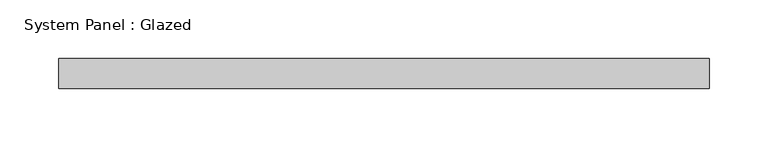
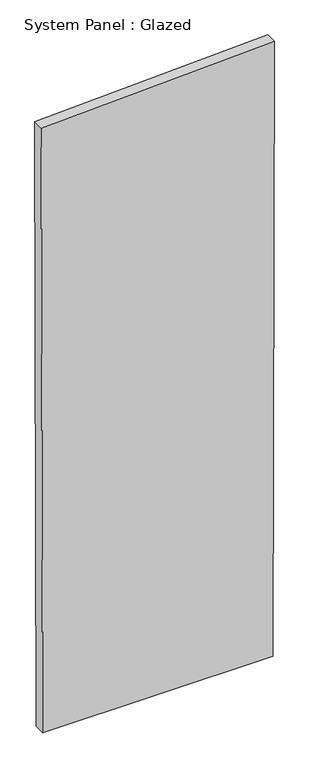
"""IFC4 building model written with IfcOpenShell, lengths in millimetres: plate geometry, System Panel : Glazed."""

from ifc_helpers import new_model, si_unit, frame, origin, place, context, project, spatial, polyline, outline, extrude, source, transform, mapped, element, save


def system_panel_glazed_33264784(model_context):
    return source(origin(), model_context, "Body", "SweptSolid", [
        extrude(outline(polyline([(0.0, -272.2208178), (0.0, 272.2247348), (1535.3227236, 275.680798), (1510.9450721, -275.680798), (0.0, -272.2208178)])), frame((0.0, -44.45, 0.0), z_axis=(0.0, 1.0, 0.0), x_axis=(0.0, 0.0, 1.0)), (0.0, 0.0, 1.0), 25.4),
    ])


if __name__ == "__main__":
    model = new_model("IFC4")
    model_context = context("Model", 3, world=origin())
    ifc_project = project(units=[si_unit("LENGTHUNIT", "METRE", prefix="MILLI")], contexts=[model_context])
    site = spatial("IfcSite", under=ifc_project)
    building = spatial("IfcBuilding", under=site)
    placement = place(None, origin())
    system_panel_glazed_shape = system_panel_glazed_33264784(model_context)
    element("IfcPlate", 1, ObjectType="System Panel : Glazed", at=placement, inside=building, context=model_context, shape_type="MappedRepresentation", body=[
        mapped(system_panel_glazed_shape, transform((0.0, 0.0, 0.0), x_axis=(1.0, 0.0, 0.0), y_axis=(0.0, 1.0, 0.0), z_axis=(0.0, 0.0, 1.0))),
    ])
    save(model, "model.ifc")
